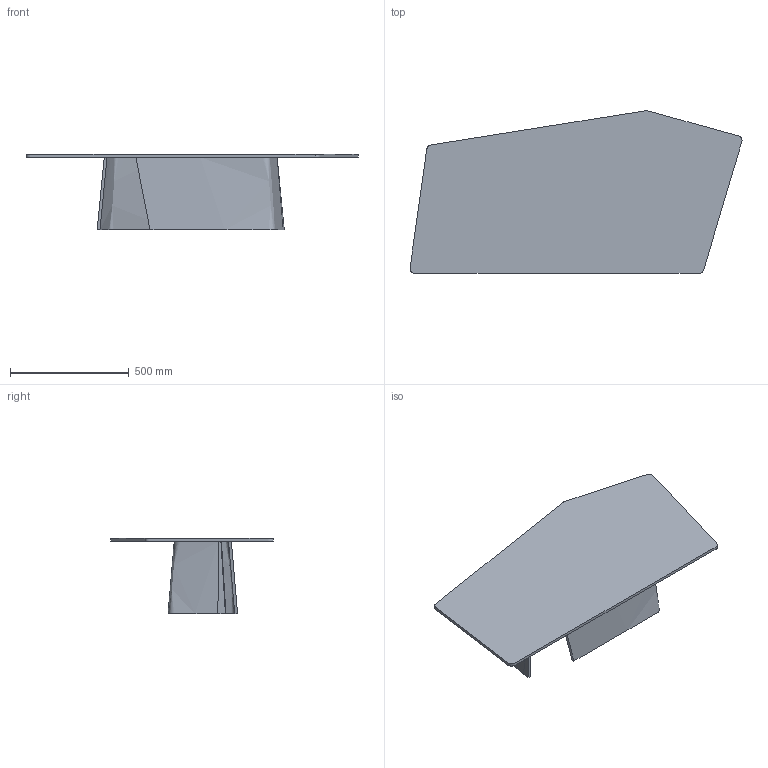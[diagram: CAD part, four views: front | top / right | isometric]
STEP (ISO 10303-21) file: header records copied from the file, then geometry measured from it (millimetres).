
FILE_DESCRIPTION(/* description */ (''),/* implementation_level */ '2;1');
FILE_NAME(/* name */ '500.101 - Accordo Tavolino trapezoidale H32 140x69',/* time_stamp */ '2010-11-03T16:22:00+01:00',/* author */ (''),/* organization */ (''),/* preprocessor_version */ 'ST-DEVELOPER v10',/* originating_system */ '',/* authorisation */ '');
FILE_SCHEMA (('CONFIG_CONTROL_DESIGN'));
Length unit declared in the file: centimetre
Products named in the file (1): 1
Bounding box: 1399.43 x 685.96 x 317 mm (x, y, z)
Volume: 13021577.9 mm3; surface area: 2556313.5 mm2
Topology: 3 solids, 3 shells, 18 faces, 36 edges, 24 vertices
Faces by surface type: bspline 12, plane 6
Entity records: 758 total; most frequent: CARTESIAN_POINT 456, ORIENTED_EDGE 72, EDGE_CURVE 36, VERTEX_POINT 24, ADVANCED_FACE 18, FACE_OUTER_BOUND 18, EDGE_LOOP 18, DIRECTION 10
